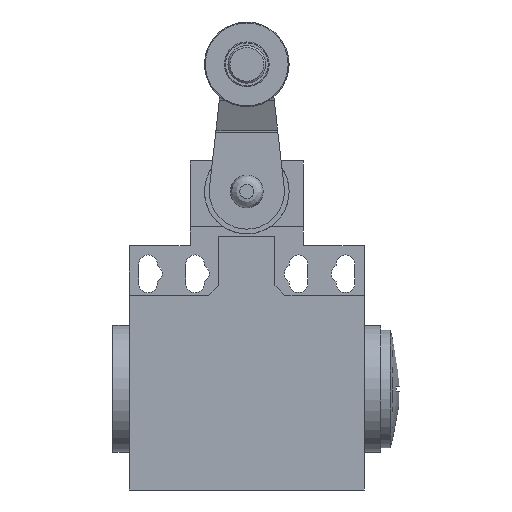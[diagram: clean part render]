
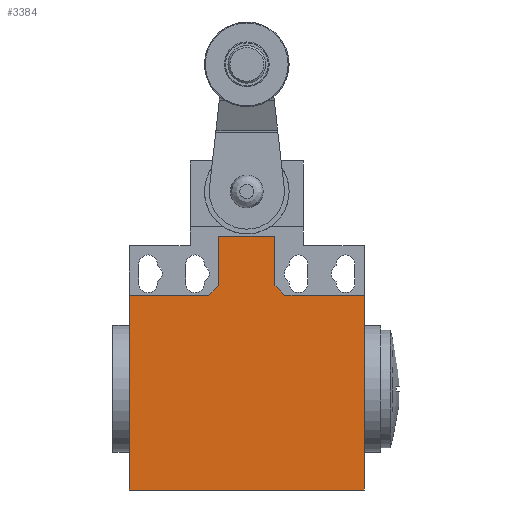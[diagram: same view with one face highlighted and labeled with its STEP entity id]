
A CAD part, front view. The second image highlights one B-rep face of the part: STEP entity #3384.
In plain terms, the highlighted planar face has unit normal (0, -1, 0).
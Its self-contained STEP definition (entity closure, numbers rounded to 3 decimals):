
#1945=CARTESIAN_POINT('',(-25.0,-16.5,0.0));
#1946=VERTEX_POINT('',#1945);
#1953=CARTESIAN_POINT('',(-25.0,-16.5,41.4));
#1954=VERTEX_POINT('',#1953);
#1955=CARTESIAN_POINT('',(-25.0,-16.5,0.0));
#1956=DIRECTION('',(0.0,0.0,1.0));
#1957=VECTOR('',#1956,41.4);
#1958=LINE('',#1955,#1957);
#1959=EDGE_CURVE('',#1946,#1954,#1958,.T.);
#2353=CARTESIAN_POINT('',(25.0,-16.5,41.4));
#2354=VERTEX_POINT('',#2353);
#2361=CARTESIAN_POINT('',(25.0,-16.5,0.0));
#2362=VERTEX_POINT('',#2361);
#2363=CARTESIAN_POINT('',(25.0,-16.5,0.0));
#2364=DIRECTION('',(0.0,0.0,1.0));
#2365=VECTOR('',#2364,41.4);
#2366=LINE('',#2363,#2365);
#2367=EDGE_CURVE('',#2362,#2354,#2366,.T.);
#2515=CARTESIAN_POINT('',(-6.,-16.5,54.0));
#2516=VERTEX_POINT('',#2515);
#2523=CARTESIAN_POINT('',(6.,-16.5,54.0));
#2524=VERTEX_POINT('',#2523);
#2525=CARTESIAN_POINT('',(6.,-16.5,54.0));
#2526=DIRECTION('',(-1.0,0.0,0.0));
#2527=VECTOR('',#2526,12.);
#2528=LINE('',#2525,#2527);
#2529=EDGE_CURVE('',#2524,#2516,#2528,.T.);
#2553=CARTESIAN_POINT('',(8.121,-16.5,41.4));
#2554=VERTEX_POINT('',#2553);
#2561=CARTESIAN_POINT('',(25.0,-16.5,41.4));
#2562=DIRECTION('',(-1.0,0.0,0.0));
#2563=VECTOR('',#2562,16.879);
#2564=LINE('',#2561,#2563);
#2565=EDGE_CURVE('',#2354,#2554,#2564,.T.);
#2584=CARTESIAN_POINT('',(6.,-16.5,43.521));
#2585=VERTEX_POINT('',#2584);
#2592=CARTESIAN_POINT('',(8.121,-16.5,41.4));
#2593=DIRECTION('',(-0.707,0.0,0.707));
#2594=VECTOR('',#2593,3.);
#2595=LINE('',#2592,#2594);
#2596=EDGE_CURVE('',#2554,#2585,#2595,.T.);
#2614=CARTESIAN_POINT('',(6.,-16.5,43.521));
#2615=DIRECTION('',(0.0,0.0,1.0));
#2616=VECTOR('',#2615,10.479);
#2617=LINE('',#2614,#2616);
#2618=EDGE_CURVE('',#2585,#2524,#2617,.T.);
#3008=CARTESIAN_POINT('',(-8.121,-16.5,41.4));
#3009=VERTEX_POINT('',#3008);
#3010=CARTESIAN_POINT('',(-8.121,-16.5,41.4));
#3011=DIRECTION('',(-1.0,0.0,0.0));
#3012=VECTOR('',#3011,16.879);
#3013=LINE('',#3010,#3012);
#3014=EDGE_CURVE('',#3009,#1954,#3013,.T.);
#3032=CARTESIAN_POINT('',(-6.,-16.5,43.521));
#3033=VERTEX_POINT('',#3032);
#3034=CARTESIAN_POINT('',(-6.,-16.5,43.521));
#3035=DIRECTION('',(-0.707,0.0,-0.707));
#3036=VECTOR('',#3035,3.);
#3037=LINE('',#3034,#3036);
#3038=EDGE_CURVE('',#3033,#3009,#3037,.T.);
#3056=CARTESIAN_POINT('',(-6.,-16.5,54.0));
#3057=DIRECTION('',(0.0,0.0,-1.0));
#3058=VECTOR('',#3057,10.479);
#3059=LINE('',#3056,#3058);
#3060=EDGE_CURVE('',#2516,#3033,#3059,.T.);
#3362=CARTESIAN_POINT('',(25.0,-16.5,0.0));
#3363=DIRECTION('',(0.0,-1.0,0.0));
#3364=DIRECTION('',(0.0,0.0,-1.0));
#3365=AXIS2_PLACEMENT_3D('',#3362,#3363,#3364);
#3366=PLANE('',#3365);
#3367=ORIENTED_EDGE('',*,*,#2618,.T.);
#3368=ORIENTED_EDGE('',*,*,#2529,.T.);
#3369=ORIENTED_EDGE('',*,*,#3060,.T.);
#3370=ORIENTED_EDGE('',*,*,#3038,.T.);
#3371=ORIENTED_EDGE('',*,*,#3014,.T.);
#3372=ORIENTED_EDGE('',*,*,#1959,.F.);
#3373=CARTESIAN_POINT('',(25.0,-16.5,0.0));
#3374=DIRECTION('',(-1.0,0.0,0.0));
#3375=VECTOR('',#3374,50.0);
#3376=LINE('',#3373,#3375);
#3377=EDGE_CURVE('',#2362,#1946,#3376,.T.);
#3378=ORIENTED_EDGE('',*,*,#3377,.F.);
#3379=ORIENTED_EDGE('',*,*,#2367,.T.);
#3380=ORIENTED_EDGE('',*,*,#2565,.T.);
#3381=ORIENTED_EDGE('',*,*,#2596,.T.);
#3382=EDGE_LOOP('',(#3367,#3368,#3369,#3370,#3371,#3372,#3378,#3379,#3380,#3381));
#3383=FACE_OUTER_BOUND('',#3382,.T.);
#3384=ADVANCED_FACE('',(#3383),#3366,.T.);
